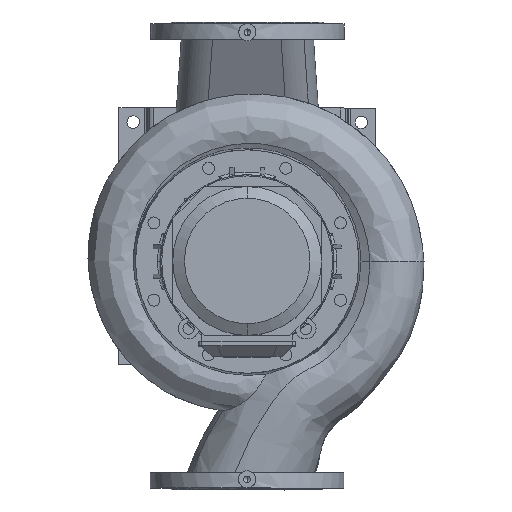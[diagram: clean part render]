
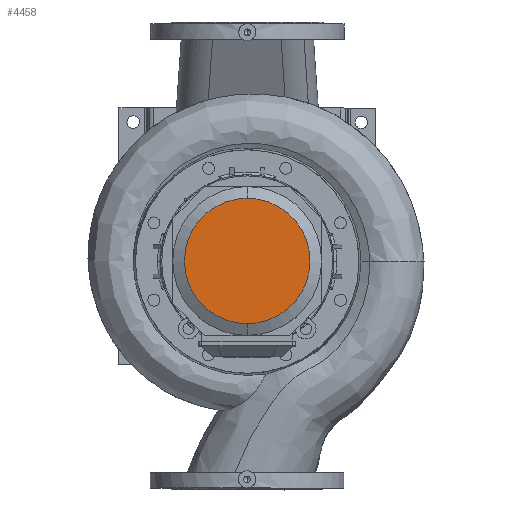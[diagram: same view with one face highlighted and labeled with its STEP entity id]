
A CAD part, top view. The second image highlights one B-rep face of the part: STEP entity #4458.
In plain terms, the highlighted planar face has unit normal (0, 0, 1) as drawn and (0, 1, 0) by its records, which use the part's own axes.
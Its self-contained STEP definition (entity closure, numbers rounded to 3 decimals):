
#4458=ADVANCED_FACE('F159',(#9016),#9017,.T.);
#9016=FACE_OUTER_BOUND('',#13982,.T.);
#9017=PLANE('',#13983);
#13982=EDGE_LOOP('',(#16097,#16098));
#13983=AXIS2_PLACEMENT_3D('',#16099,#16100,#16101);
#16097=ORIENTED_EDGE('',*,*,#19342,.T.);
#16098=ORIENTED_EDGE('',*,*,#19268,.T.);
#16099=CARTESIAN_POINT('',(-121.0,166.0,-121.0));
#16100=DIRECTION('',(0.0,1.0,0.0));
#16101=DIRECTION('',(1.0,0.0,-0.0));
#19268=EDGE_CURVE('E447',#24801,#24799,#24802,.T.);
#19342=EDGE_CURVE('E447',#24799,#24801,#24923,.T.);
#24799=VERTEX_POINT('',#27174);
#24801=VERTEX_POINT('',#27177);
#24802=CIRCLE('',#27178,110.0);
#24923=CIRCLE('',#27358,110.0);
#27174=CARTESIAN_POINT('',(0.,166.0,-110.0));
#27177=CARTESIAN_POINT('',(0.,166.0,110.0));
#27178=AXIS2_PLACEMENT_3D('',#28439,#28440,#28441);
#27358=AXIS2_PLACEMENT_3D('',#28543,#28544,#28545);
#28439=CARTESIAN_POINT('',(0.0,166.0,0.0));
#28440=DIRECTION('',(0.0,1.0,0.0));
#28441=DIRECTION('',(0.0,0.0,1.0));
#28543=CARTESIAN_POINT('',(0.0,166.0,0.0));
#28544=DIRECTION('',(0.0,1.0,0.0));
#28545=DIRECTION('',(0.0,0.0,1.0));
